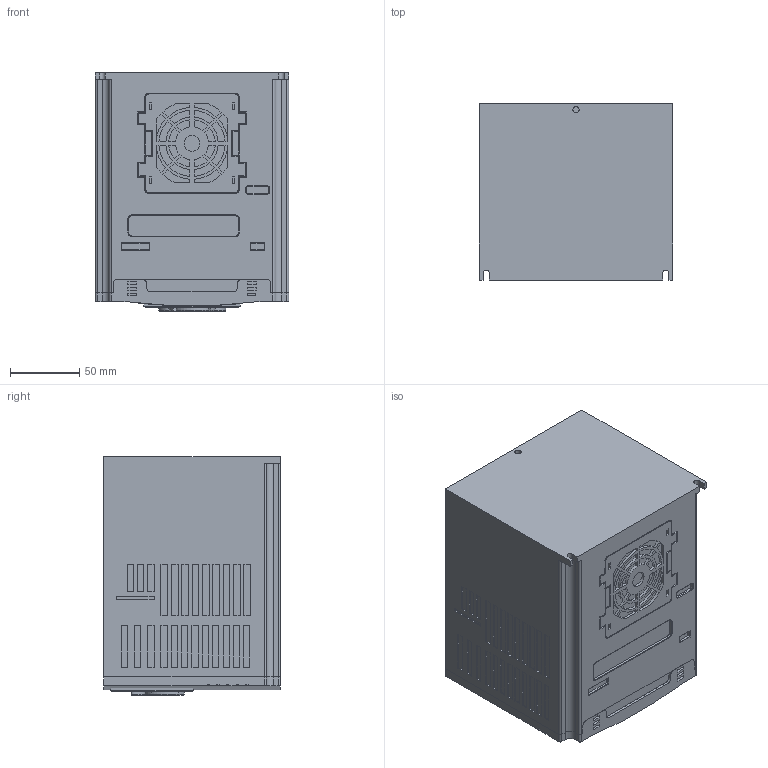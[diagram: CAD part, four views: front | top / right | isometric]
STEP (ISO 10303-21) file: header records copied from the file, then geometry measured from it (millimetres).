
FILE_DESCRIPTION (( 'STEP AP203' ), '1' );
FILE_NAME ('3D OptiCor M 140x128x155.STEP', '2016-05-31T13:11:46', ( 'admin' ), ( '' ), 'SwSTEP 2.0', 'SolidWorks 2012', '' );
FILE_SCHEMA (( 'CONFIG_CONTROL_DESIGN' ));
Length unit declared in the file: millimetre
Products named in the file (1): 3D OptiCor M 140x128x155
Bounding box: 140 x 128 x 173 mm (x, y, z)
Volume: 2929672 mm3; surface area: 174232.1 mm2
Topology: 1 solids, 1 shells, 984 faces, 2495 edges, 1645 vertices
Faces by surface type: plane 714, cylinder 243, torus 17, bspline 8, sphere 2
Entity records: 30433 total; most frequent: CARTESIAN_POINT 6235, ORIENTED_EDGE 4990, DIRECTION 4888, EDGE_CURVE 2495, VECTOR 1980, LINE 1980, VERTEX_POINT 1645, AXIS2_PLACEMENT_3D 1454
